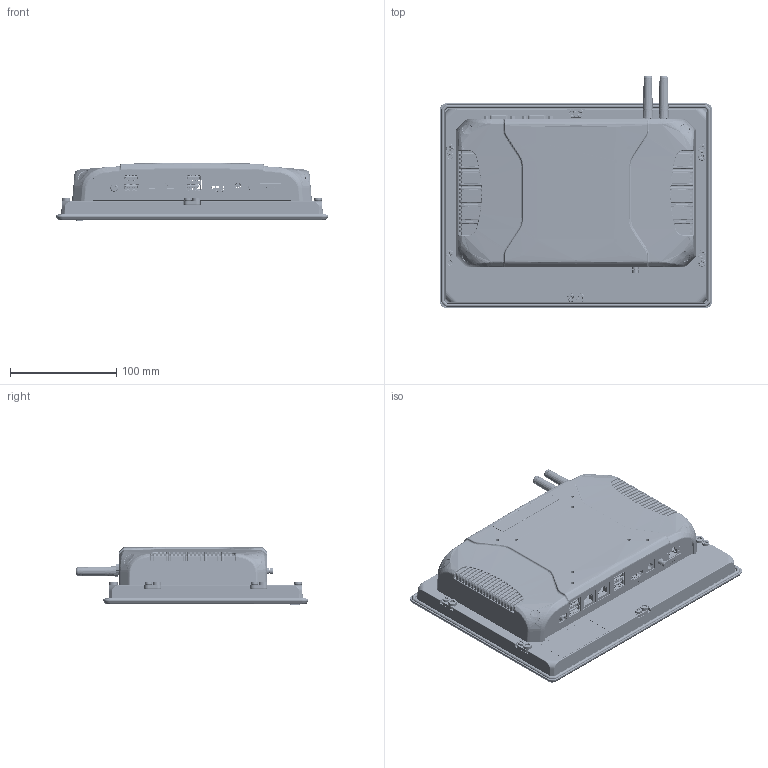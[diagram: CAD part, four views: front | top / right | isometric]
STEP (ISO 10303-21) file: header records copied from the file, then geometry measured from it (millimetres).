
FILE_DESCRIPTION (( 'STEP AP214' ), '1' );
FILE_NAME ('101-R2.STEP', '2024-04-23T07:57:08', ( '' ), ( '' ), 'SwSTEP 2.0', 'SolidWorks 2018', '' );
FILE_SCHEMA (( 'AUTOMOTIVE_DESIGN' ));
Length unit declared in the file: millimetre
Products named in the file (1): 101-R2
Bounding box: 256.69 x 219.06 x 54.97 mm (x, y, z)
Surface area: 568807.4 mm2 (no closed solid volume)
Topology: 0 solids, 321 shells, 11162 faces, 27532 edges, 16631 vertices
Faces by surface type: plane 4374, cylinder 3014, bspline 2403, torus 757, sphere 399, cone 215
Entity records: 548366 total; most frequent: CARTESIAN_POINT 181783, ORIENTED_EDGE 53960, DIRECTION 45743, EDGE_CURVE 26985, VERTEX_POINT 16629, AXIS2_PLACEMENT_3D 16058, VECTOR 13627, LINE 13627
